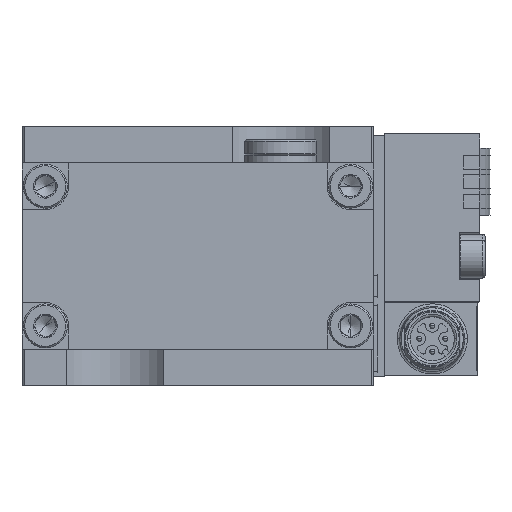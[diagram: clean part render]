
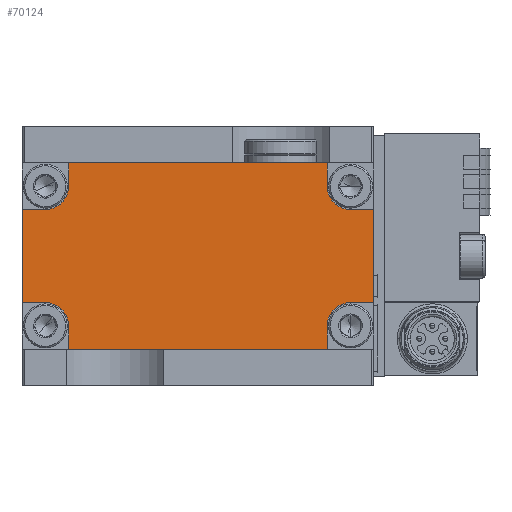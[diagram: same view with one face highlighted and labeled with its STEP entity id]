
A CAD part, front view. The second image highlights one B-rep face of the part: STEP entity #70124.
In plain terms, the highlighted planar face has unit normal (0, -1, 0).
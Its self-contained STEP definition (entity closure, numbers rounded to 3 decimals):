
#411 = AXIS2_PLACEMENT_3D ( 'NONE', #27544, #55982, #26814 ) ;
#707 = VERTEX_POINT ( 'NONE', #51504 ) ;
#1193 = DIRECTION ( 'NONE',  ( -1., 0., 0. ) ) ;
#1555 = LINE ( 'NONE', #69156, #42211 ) ;
#1823 = DIRECTION ( 'NONE',  ( -1., 0., 0. ) ) ;
#2044 = CARTESIAN_POINT ( 'NONE',  ( -34., -174.3, -9. ) ) ;
#2917 = CARTESIAN_POINT ( 'NONE',  ( -25., -174.3, 13.5 ) ) ;
#3042 = DIRECTION ( 'NONE',  ( 0., 0., -1. ) ) ;
#3259 = LINE ( 'NONE', #25825, #26489 ) ;
#3950 = ORIENTED_EDGE ( 'NONE', *, *, #47706, .F. ) ;
#4603 = DIRECTION ( 'NONE',  ( 0., 0., 1. ) ) ;
#6254 = DIRECTION ( 'NONE',  ( 0., -1., 0. ) ) ;
#6665 = VECTOR ( 'NONE', #3042, 1000. ) ;
#6713 = PLANE ( 'NONE',  #52163 ) ;
#6791 = VECTOR ( 'NONE', #59178, 1000. ) ;
#6855 = CARTESIAN_POINT ( 'NONE',  ( 34., -174.3, 9. ) ) ;
#7588 = EDGE_CURVE ( 'NONE', #12611, #61927, #53763, .T. ) ;
#7942 = CARTESIAN_POINT ( 'NONE',  ( -29.5, -174.3, 9. ) ) ;
#8070 = DIRECTION ( 'NONE',  ( -1., 0., 0. ) ) ;
#8145 = ORIENTED_EDGE ( 'NONE', *, *, #45447, .F. ) ;
#8671 = DIRECTION ( 'NONE',  ( 0., -1., 0. ) ) ;
#8773 = CARTESIAN_POINT ( 'NONE',  ( -34., -174.3, -18. ) ) ;
#9968 = CARTESIAN_POINT ( 'NONE',  ( 25., -174.3, -13.5 ) ) ;
#10181 = CARTESIAN_POINT ( 'NONE',  ( -34., -174.3, -18. ) ) ;
#11000 = ORIENTED_EDGE ( 'NONE', *, *, #52529, .F. ) ;
#11901 = DIRECTION ( 'NONE',  ( 1., 0., 0. ) ) ;
#12177 = CIRCLE ( 'NONE', #411, 4.5 ) ;
#12611 = VERTEX_POINT ( 'NONE', #6855 ) ;
#12824 = VECTOR ( 'NONE', #4603, 1000. ) ;
#13285 = VERTEX_POINT ( 'NONE', #60687 ) ;
#14177 = EDGE_CURVE ( 'NONE', #17949, #40312, #37780, .T. ) ;
#14677 = LINE ( 'NONE', #8773, #38798 ) ;
#15548 = ORIENTED_EDGE ( 'NONE', *, *, #38339, .F. ) ;
#15554 = ORIENTED_EDGE ( 'NONE', *, *, #23896, .T. ) ;
#15897 = EDGE_CURVE ( 'NONE', #64527, #12611, #72088, .T. ) ;
#16931 = EDGE_CURVE ( 'NONE', #13285, #24021, #22771, .T. ) ;
#17723 = CARTESIAN_POINT ( 'NONE',  ( 25., -174.3, 13.5 ) ) ;
#17949 = VERTEX_POINT ( 'NONE', #42576 ) ;
#17992 = CARTESIAN_POINT ( 'NONE',  ( 25., -174.3, -18. ) ) ;
#18973 = AXIS2_PLACEMENT_3D ( 'NONE', #42296, #8671, #58932 ) ;
#19402 = CARTESIAN_POINT ( 'NONE',  ( -25., -174.3, -13.5 ) ) ;
#20660 = DIRECTION ( 'NONE',  ( 0., 0., 1. ) ) ;
#22771 = CIRCLE ( 'NONE', #35750, 4.5 ) ;
#23167 = VECTOR ( 'NONE', #37687, 1000. ) ;
#23412 = CARTESIAN_POINT ( 'NONE',  ( -34., -174.3, 9. ) ) ;
#23896 = EDGE_CURVE ( 'NONE', #52996, #59284, #14677, .T. ) ;
#24021 = VERTEX_POINT ( 'NONE', #49382 ) ;
#24274 = EDGE_CURVE ( 'NONE', #67674, #707, #47101, .T. ) ;
#24289 = CARTESIAN_POINT ( 'NONE',  ( -25., -174.3, -18. ) ) ;
#24596 = DIRECTION ( 'NONE',  ( 1., 0., 0. ) ) ;
#24598 = AXIS2_PLACEMENT_3D ( 'NONE', #62427, #6254, #1823 ) ;
#25499 = LINE ( 'NONE', #9968, #23167 ) ;
#25738 = CARTESIAN_POINT ( 'NONE',  ( 29.5, -174.3, -13.5 ) ) ;
#25825 = CARTESIAN_POINT ( 'NONE',  ( 29.5, -174.3, -9. ) ) ;
#26030 = EDGE_CURVE ( 'NONE', #41941, #32343, #47144, .T. ) ;
#26489 = VECTOR ( 'NONE', #8070, 1000. ) ;
#26685 = ORIENTED_EDGE ( 'NONE', *, *, #7588, .F. ) ;
#26814 = DIRECTION ( 'NONE',  ( -1., 0., 0. ) ) ;
#27429 = ORIENTED_EDGE ( 'NONE', *, *, #58799, .F. ) ;
#27544 = CARTESIAN_POINT ( 'NONE',  ( -29.5, -174.3, -13.5 ) ) ;
#28359 = EDGE_LOOP ( 'NONE', ( #30508, #15548, #52759, #27429, #46360, #15554, #43231, #39168, #8145, #26685, #59977, #29037, #62098, #70210, #3950, #11000 ) ) ;
#28416 = CIRCLE ( 'NONE', #18973, 4.5 ) ;
#29037 = ORIENTED_EDGE ( 'NONE', *, *, #72072, .F. ) ;
#29296 = CARTESIAN_POINT ( 'NONE',  ( -34., -174.3, 18. ) ) ;
#30037 = CARTESIAN_POINT ( 'NONE',  ( -25., -174.3, -13.5 ) ) ;
#30398 = FACE_OUTER_BOUND ( 'NONE', #28359, .T. ) ;
#30508 = ORIENTED_EDGE ( 'NONE', *, *, #24274, .F. ) ;
#31022 = LINE ( 'NONE', #2917, #39699 ) ;
#31254 = DIRECTION ( 'NONE',  ( 0., 0., -1. ) ) ;
#32343 = VERTEX_POINT ( 'NONE', #2044 ) ;
#32720 = LINE ( 'NONE', #10181, #12824 ) ;
#33813 = CARTESIAN_POINT ( 'NONE',  ( -25., -174.3, 13.5 ) ) ;
#35750 = AXIS2_PLACEMENT_3D ( 'NONE', #25738, #54162, #48254 ) ;
#37687 = DIRECTION ( 'NONE',  ( 0., 0., -1. ) ) ;
#37780 = LINE ( 'NONE', #59935, #6665 ) ;
#38339 = EDGE_CURVE ( 'NONE', #32343, #67674, #32720, .T. ) ;
#38798 = VECTOR ( 'NONE', #47559, 1000. ) ;
#39168 = ORIENTED_EDGE ( 'NONE', *, *, #16931, .F. ) ;
#39699 = VECTOR ( 'NONE', #20660, 1000. ) ;
#40312 = VERTEX_POINT ( 'NONE', #17723 ) ;
#41092 = DIRECTION ( 'NONE',  ( -1., 0., 0. ) ) ;
#41941 = VERTEX_POINT ( 'NONE', #65340 ) ;
#42066 = VERTEX_POINT ( 'NONE', #55701 ) ;
#42211 = VECTOR ( 'NONE', #41092, 1000. ) ;
#42296 = CARTESIAN_POINT ( 'NONE',  ( 29.5, -174.3, 13.5 ) ) ;
#42576 = CARTESIAN_POINT ( 'NONE',  ( 25., -174.3, 18. ) ) ;
#43231 = ORIENTED_EDGE ( 'NONE', *, *, #48916, .F. ) ;
#45447 = EDGE_CURVE ( 'NONE', #61927, #13285, #3259, .T. ) ;
#46333 = CARTESIAN_POINT ( 'NONE',  ( 29.5, -174.3, 9. ) ) ;
#46360 = ORIENTED_EDGE ( 'NONE', *, *, #65108, .F. ) ;
#47101 = LINE ( 'NONE', #7942, #64786 ) ;
#47144 = LINE ( 'NONE', #70046, #55678 ) ;
#47559 = DIRECTION ( 'NONE',  ( 1., 0., 0. ) ) ;
#47706 = EDGE_CURVE ( 'NONE', #57684, #42066, #31022, .T. ) ;
#48254 = DIRECTION ( 'NONE',  ( -1., 0., 0. ) ) ;
#48916 = EDGE_CURVE ( 'NONE', #24021, #59284, #25499, .T. ) ;
#49382 = CARTESIAN_POINT ( 'NONE',  ( 25., -174.3, -13.5 ) ) ;
#51504 = CARTESIAN_POINT ( 'NONE',  ( -29.5, -174.3, 9. ) ) ;
#51797 = DIRECTION ( 'NONE',  ( 0., -1., 0. ) ) ;
#52163 = AXIS2_PLACEMENT_3D ( 'NONE', #29296, #51797, #1193 ) ;
#52460 = CARTESIAN_POINT ( 'NONE',  ( 34., -174.3, -9. ) ) ;
#52529 = EDGE_CURVE ( 'NONE', #707, #57684, #68237, .T. ) ;
#52759 = ORIENTED_EDGE ( 'NONE', *, *, #26030, .F. ) ;
#52996 = VERTEX_POINT ( 'NONE', #24289 ) ;
#53460 = VECTOR ( 'NONE', #11901, 1000. ) ;
#53763 = LINE ( 'NONE', #57841, #58964 ) ;
#54161 = DIRECTION ( 'NONE',  ( -1., 0., 0. ) ) ;
#54162 = DIRECTION ( 'NONE',  ( 0., -1., 0. ) ) ;
#55678 = VECTOR ( 'NONE', #54161, 1000. ) ;
#55701 = CARTESIAN_POINT ( 'NONE',  ( -25., -174.3, 18. ) ) ;
#55982 = DIRECTION ( 'NONE',  ( 0., -1., 0. ) ) ;
#57684 = VERTEX_POINT ( 'NONE', #33813 ) ;
#57841 = CARTESIAN_POINT ( 'NONE',  ( 34., -174.3, 18. ) ) ;
#58799 = EDGE_CURVE ( 'NONE', #69269, #41941, #12177, .T. ) ;
#58932 = DIRECTION ( 'NONE',  ( -1., 0., 0. ) ) ;
#58964 = VECTOR ( 'NONE', #31254, 1000. ) ;
#59178 = DIRECTION ( 'NONE',  ( 0., 0., 1. ) ) ;
#59284 = VERTEX_POINT ( 'NONE', #17992 ) ;
#59935 = CARTESIAN_POINT ( 'NONE',  ( 25., -174.3, 13.5 ) ) ;
#59977 = ORIENTED_EDGE ( 'NONE', *, *, #15897, .F. ) ;
#60687 = CARTESIAN_POINT ( 'NONE',  ( 29.5, -174.3, -9. ) ) ;
#61927 = VERTEX_POINT ( 'NONE', #52460 ) ;
#62098 = ORIENTED_EDGE ( 'NONE', *, *, #14177, .F. ) ;
#62427 = CARTESIAN_POINT ( 'NONE',  ( -29.5, -174.3, 13.5 ) ) ;
#62496 = CARTESIAN_POINT ( 'NONE',  ( 29.5, -174.3, 9. ) ) ;
#64527 = VERTEX_POINT ( 'NONE', #46333 ) ;
#64786 = VECTOR ( 'NONE', #24596, 1000. ) ;
#65031 = EDGE_CURVE ( 'NONE', #17949, #42066, #1555, .T. ) ;
#65108 = EDGE_CURVE ( 'NONE', #52996, #69269, #69873, .T. ) ;
#65340 = CARTESIAN_POINT ( 'NONE',  ( -29.5, -174.3, -9. ) ) ;
#67674 = VERTEX_POINT ( 'NONE', #23412 ) ;
#68237 = CIRCLE ( 'NONE', #24598, 4.5 ) ;
#69156 = CARTESIAN_POINT ( 'NONE',  ( 34., -174.3, 18. ) ) ;
#69269 = VERTEX_POINT ( 'NONE', #19402 ) ;
#69873 = LINE ( 'NONE', #30037, #6791 ) ;
#70046 = CARTESIAN_POINT ( 'NONE',  ( -29.5, -174.3, -9. ) ) ;
#70124 = ADVANCED_FACE ( 'NONE', ( #30398 ), #6713, .T. ) ;
#70210 = ORIENTED_EDGE ( 'NONE', *, *, #65031, .T. ) ;
#72072 = EDGE_CURVE ( 'NONE', #40312, #64527, #28416, .T. ) ;
#72088 = LINE ( 'NONE', #62496, #53460 ) ;
